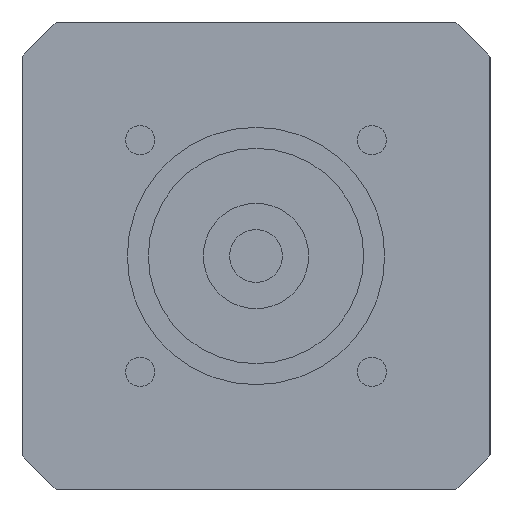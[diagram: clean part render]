
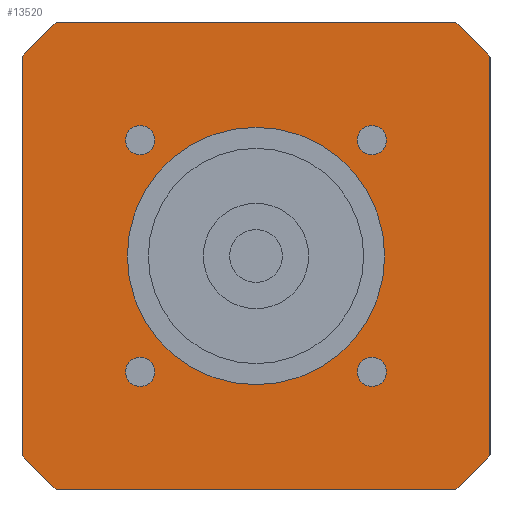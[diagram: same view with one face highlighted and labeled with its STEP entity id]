
A CAD part, left-side view. The second image highlights one B-rep face of the part: STEP entity #13520.
In plain terms, the highlighted planar face has unit normal (-1, 0, 0) as drawn and (0, 0, -1) by its records, which use the part's own axes.
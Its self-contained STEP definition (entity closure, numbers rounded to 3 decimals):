
#8660=CARTESIAN_POINT('',(-34.004,-40.,-44.2));
#8670=VERTEX_POINT('',#8660);
#8820=CARTESIAN_POINT('',(34.004,-40.,-44.2));
#8830=VERTEX_POINT('',#8820);
#8860=CARTESIAN_POINT('',(-40.,-40.,-44.2));
#8870=DIRECTION('',(1.,0.,0.));
#8880=VECTOR('',#8870,1000.);
#8890=LINE('',#8860,#8880);
#8900=EDGE_CURVE('',#8670,#8830,#8890,.T.);
#9060=CARTESIAN_POINT('',(40.,-34.004,-44.2));
#9070=VERTEX_POINT('',#9060);
#9100=CARTESIAN_POINT('',(0.,0.,
-44.2));
#9110=DIRECTION('',(0.,0.,1.));
#9120=DIRECTION('',(1.,0.,0.));
#9130=AXIS2_PLACEMENT_3D('',#9100,#9110,#9120);
#9140=CIRCLE('',#9130,52.5);
#9150=EDGE_CURVE('',#8830,#9070,#9140,.T.);
#11860=CARTESIAN_POINT('',(40.,34.004,-44.2));
#11870=VERTEX_POINT('',#11860);
#11950=CARTESIAN_POINT('',(34.004,40.,-44.2));
#11960=VERTEX_POINT('',#11950);
#11990=CARTESIAN_POINT('',(0.,0.,
-44.2));
#12000=DIRECTION('',(0.,0.,1.));
#12010=DIRECTION('',(1.,0.,0.));
#12020=AXIS2_PLACEMENT_3D('',#11990,#12000,#12010);
#12030=CIRCLE('',#12020,52.5);
#12040=EDGE_CURVE('',#11870,#11960,#12030,.T.);
#12090=CARTESIAN_POINT('',(40.,40.,-44.2));
#12100=DIRECTION('',(0.,0.,1.));
#12110=DIRECTION('',(0.,1.,0.));
#12120=AXIS2_PLACEMENT_3D('',#12090,#12100,#12110);
#12130=PLANE('',#12120);
#12140=CARTESIAN_POINT('',(0.,0.,
-44.2));
#12150=DIRECTION('',(0.,0.,1.));
#12160=DIRECTION('',(1.,0.,0.));
#12170=AXIS2_PLACEMENT_3D('',#12140,#12150,#12160);
#12180=CIRCLE('',#12170,52.5);
#12190=CARTESIAN_POINT('',(-34.004,40.,-44.2));
#12200=VERTEX_POINT('',#12190);
#12210=CARTESIAN_POINT('',(-40.,34.004,-44.2));
#12220=VERTEX_POINT('',#12210);
#12230=EDGE_CURVE('',#12200,#12220,#12180,.T.);
#12240=ORIENTED_EDGE('',*,*,#12230,.F.);
#12250=CARTESIAN_POINT('',(-40.,40.,-44.2));
#12260=DIRECTION('',(0.,-1.,0.));
#12270=VECTOR('',#12260,1000.);
#12280=LINE('',#12250,#12270);
#12290=CARTESIAN_POINT('',(-40.,-34.004,-44.2));
#12300=VERTEX_POINT('',#12290);
#12310=EDGE_CURVE('',#12220,#12300,#12280,.T.);
#12320=ORIENTED_EDGE('',*,*,#12310,.F.);
#12330=CARTESIAN_POINT('',(0.,0.,
-44.2));
#12340=DIRECTION('',(0.,0.,1.));
#12350=DIRECTION('',(1.,0.,0.));
#12360=AXIS2_PLACEMENT_3D('',#12330,#12340,#12350);
#12370=CIRCLE('',#12360,52.5);
#12380=EDGE_CURVE('',#12300,#8670,#12370,.T.);
#12390=ORIENTED_EDGE('',*,*,#12380,.F.);
#12400=ORIENTED_EDGE('',*,*,#8900,.F.);
#12410=ORIENTED_EDGE('',*,*,#9150,.F.);
#12420=CARTESIAN_POINT('',(40.,-40.,-44.2));
#12430=DIRECTION('',(0.,1.,0.));
#12440=VECTOR('',#12430,1000.);
#12450=LINE('',#12420,#12440);
#12460=EDGE_CURVE('',#9070,#11870,#12450,.T.);
#12470=ORIENTED_EDGE('',*,*,#12460,.F.);
#12480=ORIENTED_EDGE('',*,*,#12040,.F.);
#12490=CARTESIAN_POINT('',(40.,40.,-44.2));
#12500=DIRECTION('',(-1.,0.,0.));
#12510=VECTOR('',#12500,1000.);
#12520=LINE('',#12490,#12510);
#12530=EDGE_CURVE('',#11960,#12200,#12520,.T.);
#12540=ORIENTED_EDGE('',*,*,#12530,.F.);
#12550=EDGE_LOOP('',(#12540,#12480,#12470,#12410,#12400,#12390,#12320,
#12240));
#12560=FACE_OUTER_BOUND('',#12550,.T.);
#12570=CARTESIAN_POINT('',(-19.799,19.799,-44.2));
#12580=DIRECTION('',(0.,0.,-1.));
#12590=DIRECTION('',(1.,0.,0.));
#12600=AXIS2_PLACEMENT_3D('',#12570,#12580,#12590);
#12610=CIRCLE('',#12600,2.5);
#12620=CARTESIAN_POINT('',(-17.299,19.799,-44.2));
#12630=VERTEX_POINT('',#12620);
#12640=CARTESIAN_POINT('',(-19.799,17.299,-44.2));
#12650=VERTEX_POINT('',#12640);
#12660=EDGE_CURVE('',#12630,#12650,#12610,.T.);
#12670=ORIENTED_EDGE('',*,*,#12660,.F.);
#12680=CARTESIAN_POINT('',(-19.799,22.299,-44.2));
#12690=VERTEX_POINT('',#12680);
#12700=EDGE_CURVE('',#12650,#12690,#12610,.T.);
#12710=ORIENTED_EDGE('',*,*,#12700,.F.);
#12720=EDGE_CURVE('',#12690,#12630,#12610,.T.);
#12730=ORIENTED_EDGE('',*,*,#12720,.F.);
#12740=EDGE_LOOP('',(#12730,#12710,#12670));
#12750=FACE_BOUND('',#12740,.T.);
#12760=CARTESIAN_POINT('',(19.799,19.799,-44.2));
#12770=DIRECTION('',(0.,0.,-1.));
#12780=DIRECTION('',(1.,0.,0.));
#12790=AXIS2_PLACEMENT_3D('',#12760,#12770,#12780);
#12800=CIRCLE('',#12790,2.5);
#12810=CARTESIAN_POINT('',(22.299,19.799,-44.2));
#12820=VERTEX_POINT('',#12810);
#12830=CARTESIAN_POINT('',(19.799,17.299,-44.2));
#12840=VERTEX_POINT('',#12830);
#12850=EDGE_CURVE('',#12820,#12840,#12800,.T.);
#12860=ORIENTED_EDGE('',*,*,#12850,.F.);
#12870=CARTESIAN_POINT('',(19.799,22.299,-44.2));
#12880=VERTEX_POINT('',#12870);
#12890=EDGE_CURVE('',#12840,#12880,#12800,.T.);
#12900=ORIENTED_EDGE('',*,*,#12890,.F.);
#12910=EDGE_CURVE('',#12880,#12820,#12800,.T.);
#12920=ORIENTED_EDGE('',*,*,#12910,.F.);
#12930=EDGE_LOOP('',(#12920,#12900,#12860));
#12940=FACE_BOUND('',#12930,.T.);
#12950=CARTESIAN_POINT('',(19.799,-19.799,-44.2));
#12960=DIRECTION('',(0.,0.,-1.));
#12970=DIRECTION('',(1.,0.,0.));
#12980=AXIS2_PLACEMENT_3D('',#12950,#12960,#12970);
#12990=CIRCLE('',#12980,2.5);
#13000=CARTESIAN_POINT('',(22.299,-19.799,-44.2));
#13010=VERTEX_POINT('',#13000);
#13020=CARTESIAN_POINT('',(19.799,-22.299,-44.2));
#13030=VERTEX_POINT('',#13020);
#13040=EDGE_CURVE('',#13010,#13030,#12990,.T.);
#13050=ORIENTED_EDGE('',*,*,#13040,.F.);
#13060=CARTESIAN_POINT('',(19.799,-17.299,-44.2));
#13070=VERTEX_POINT('',#13060);
#13080=EDGE_CURVE('',#13030,#13070,#12990,.T.);
#13090=ORIENTED_EDGE('',*,*,#13080,.F.);
#13100=EDGE_CURVE('',#13070,#13010,#12990,.T.);
#13110=ORIENTED_EDGE('',*,*,#13100,.F.);
#13120=EDGE_LOOP('',(#13110,#13090,#13050));
#13130=FACE_BOUND('',#13120,.T.);
#13140=CARTESIAN_POINT('',(-19.799,-19.799,-44.2));
#13150=DIRECTION('',(0.,0.,-1.));
#13160=DIRECTION('',(1.,0.,0.));
#13170=AXIS2_PLACEMENT_3D('',#13140,#13150,#13160);
#13180=CIRCLE('',#13170,2.5);
#13190=CARTESIAN_POINT('',(-17.299,-19.799,-44.2));
#13200=VERTEX_POINT('',#13190);
#13210=CARTESIAN_POINT('',(-19.799,-22.299,-44.2));
#13220=VERTEX_POINT('',#13210);
#13230=EDGE_CURVE('',#13200,#13220,#13180,.T.);
#13240=ORIENTED_EDGE('',*,*,#13230,.F.);
#13250=CARTESIAN_POINT('',(-19.799,-17.299,-44.2));
#13260=VERTEX_POINT('',#13250);
#13270=EDGE_CURVE('',#13220,#13260,#13180,.T.);
#13280=ORIENTED_EDGE('',*,*,#13270,.F.);
#13290=EDGE_CURVE('',#13260,#13200,#13180,.T.);
#13300=ORIENTED_EDGE('',*,*,#13290,.F.);
#13310=EDGE_LOOP('',(#13300,#13280,#13240));
#13320=FACE_BOUND('',#13310,.T.);
#13330=CARTESIAN_POINT('',(0.,0.,
-44.2));
#13340=DIRECTION('',(0.,0.,1.));
#13350=DIRECTION('',(1.,0.,0.));
#13360=AXIS2_PLACEMENT_3D('',#13330,#13340,#13350);
#13370=CIRCLE('',#13360,22.);
#13380=CARTESIAN_POINT('',(0.,22.,-44.2));
#13390=VERTEX_POINT('',#13380);
#13400=CARTESIAN_POINT('',(0.,-22.,-44.2));
#13410=VERTEX_POINT('',#13400);
#13420=EDGE_CURVE('',#13390,#13410,#13370,.T.);
#13430=ORIENTED_EDGE('',*,*,#13420,.T.);
#13440=CARTESIAN_POINT('',(22.,0.,-44.2));
#13450=VERTEX_POINT('',#13440);
#13460=EDGE_CURVE('',#13450,#13390,#13370,.T.);
#13470=ORIENTED_EDGE('',*,*,#13460,.T.);
#13480=EDGE_CURVE('',#13410,#13450,#13370,.T.);
#13490=ORIENTED_EDGE('',*,*,#13480,.T.);
#13500=EDGE_LOOP('',(#13490,#13470,#13430));
#13510=FACE_BOUND('',#13500,.T.);
#13520=ADVANCED_FACE('',(#12560,#12750,#12940,#13130,#13320,#13510),
#12130,.F.);
